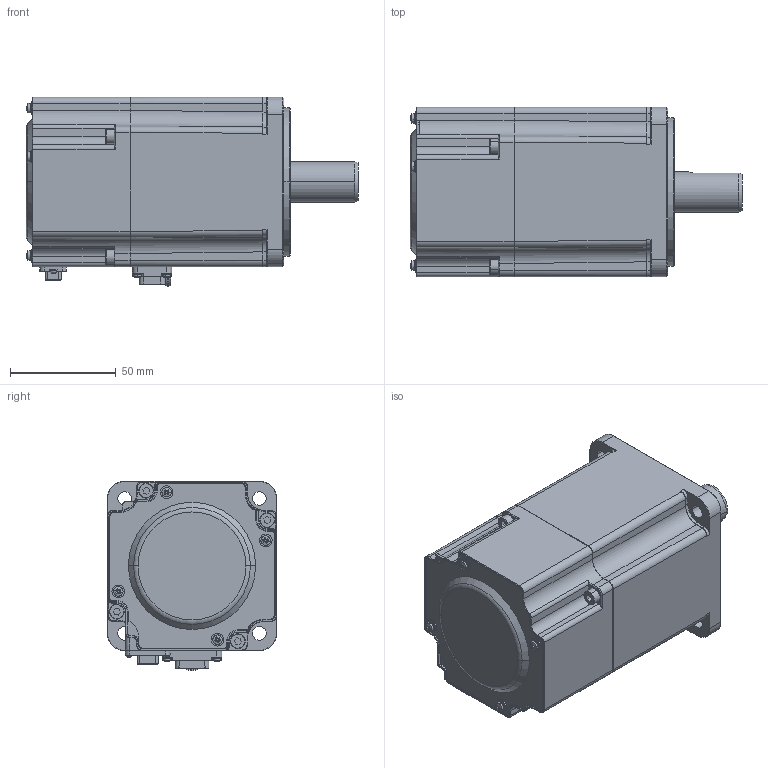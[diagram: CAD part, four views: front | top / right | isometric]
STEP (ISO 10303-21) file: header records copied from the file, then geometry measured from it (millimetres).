
FILE_DESCRIPTION (( 'STEP AP214' ), '1' );
FILE_NAME ('80价陬軞蚾.STEP', '2024-05-23T03:18:52', ( 'Windows 蚚誧' ), ( 'Organization' ), 'SwSTEP 2.0', 'SolidWorks 2021', '' );
FILE_SCHEMA (( 'AUTOMOTIVE_DESIGN' ));
Length unit declared in the file: millimetre
Products named in the file (1): 80价陬軞蚾
Bounding box: 156.7 x 80 x 89.5 mm (x, y, z)
Surface area: 60891.9 mm2 (no closed solid volume)
Topology: 0 solids, 49 shells, 1005 faces, 3396 edges, 2348 vertices
Faces by surface type: plane 488, cylinder 307, cone 96, torus 62, bspline 34, sphere 18
Entity records: 50014 total; most frequent: CARTESIAN_POINT 10039, DIRECTION 6184, ORIENTED_EDGE 5386, EDGE_CURVE 3387, VERTEX_POINT 2348, AXIS2_PLACEMENT_3D 2207, VECTOR 1770, LINE 1770
